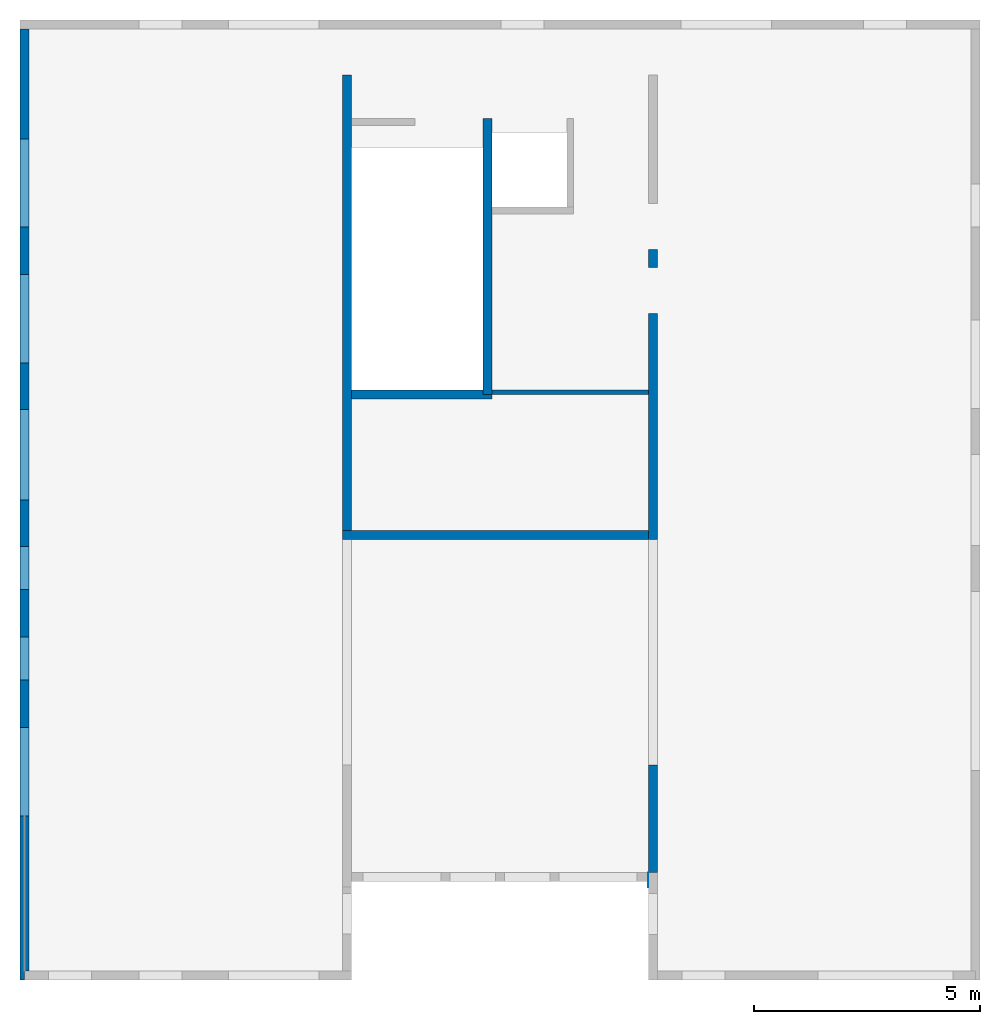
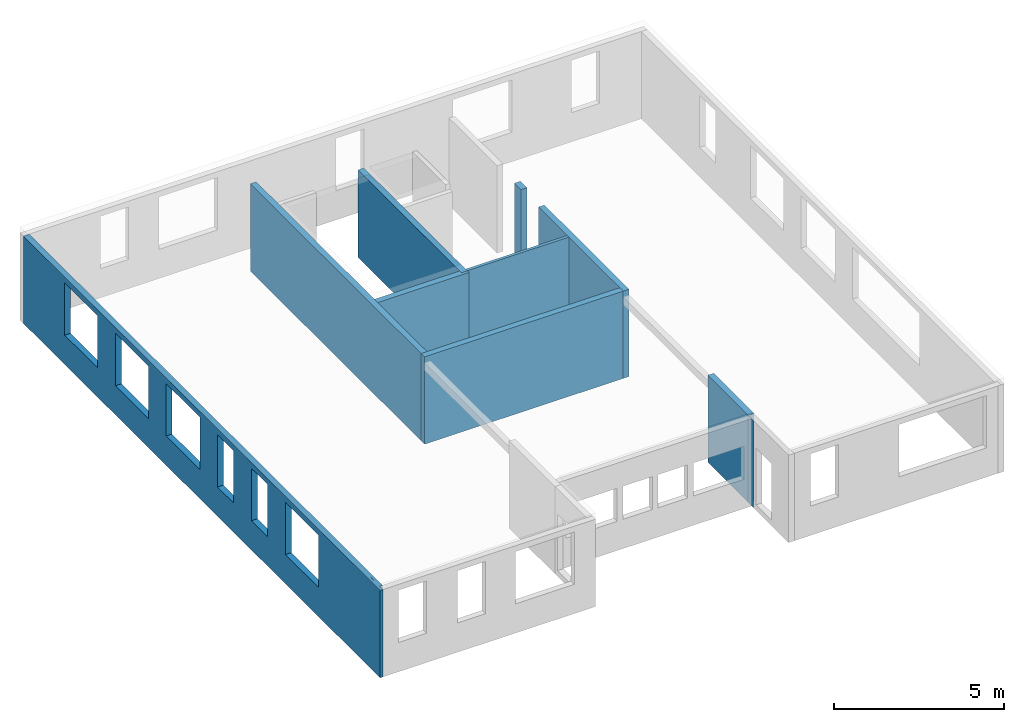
# One storey, part 2 of 3: 10 walls, 6 openings.
"""IFC2X3 building model written with IfcOpenShell, lengths in millimetres."""

from ifc_helpers import new_model, entity, si_unit, converted_unit, frame, frame_2d, origin, origin_with_axes, place, context, subcontext, project, spatial, polyline, rectangle, outline, extrude, material, layer, layer_set, layer_usage, element, save


model = new_model("IFC2X3")

# Units and contexts
model_context = context("Model", 3, precision=1e-05, world=origin())
body_context = subcontext(model_context, "Body", "Model", "MODEL_VIEW")
ifc_project = project(units=[si_unit("LENGTHUNIT", "METRE", prefix="MILLI"), converted_unit("PLANEANGLEUNIT", "DEGREE", entity("IfcPlaneAngleMeasure", 0.0174532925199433), si_unit("PLANEANGLEUNIT", "RADIAN"), dimensions=[0, 0, 0, 0, 0, 0, 0]), si_unit("AREAUNIT", "SQUARE_METRE"), si_unit("VOLUMEUNIT", "CUBIC_METRE")], contexts=[model_context])

# Building, storey
building_placement = place(None, origin())
building = spatial("IfcBuilding", under=ifc_project, at=building_placement, Name="Bâtiment", CompositionType="ELEMENT")
storey_placement = place(building_placement, frame((0.0, 0.0, 8450.0), z_axis=(0.0, 0.0, 1.0), x_axis=(1.0, 0.0, 0.0)))
storey = spatial("IfcBuildingStorey", under=building, at=storey_placement, Name="2. Etage supérieur", CompositionType="ELEMENT", Elevation=8450.0)

# Walls
ifc_material_1 = material(Name="<Unnamed Material>")
ifc_layer_1 = layer(ifc_material_1, 201.0)
ifc_layer_set_1 = layer_set([ifc_layer_1])
ifc_layer_usage_1 = layer_usage(ifc_layer_set_1, "AXIS2", "POSITIVE", 0.0)
wall_1_placement = place(storey_placement, frame((5082.184242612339, -21983.46924332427, -200.0), z_axis=(0.0, 0.0, 1.0), x_axis=(0.0, 1.0, 0.0)))
element("IfcWallStandardCase", 1, at=wall_1_placement, inside=storey, material=ifc_layer_usage_1, Name="<Unnamed Element>", context=body_context, shape_type="SweptSolid", body=[
    extrude(rectangle(XDim=10052.30491626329, YDim=201.0, at=frame_2d((5026.152458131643, 100.5), x_axis=(1.0, 0.0))), origin_with_axes(), (0.0, 0.0, 1.0), 3139.999999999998),
])
ifc_material_2 = material(Name="<Unnamed Material>")
ifc_layer_2 = layer(ifc_material_2, 200.0)
ifc_layer_set_2 = layer_set([ifc_layer_2])
ifc_layer_usage_2 = layer_usage(ifc_layer_set_2, "AXIS2", "POSITIVE", 0.0)
wall_2_placement = place(storey_placement, frame((8181.015023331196, -18984.53276778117, -200.0), z_axis=(0.0, 0.0, 1.0), x_axis=(0.0, 1.0, 0.0)))
element("IfcWallStandardCase", 2, at=wall_2_placement, inside=storey, material=ifc_layer_usage_2, Name="<Unnamed Element>", context=body_context, shape_type="SweptSolid", body=[
    extrude(rectangle(XDim=6092.387292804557, YDim=200.0, at=frame_2d((3046.193646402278, 100.0), x_axis=(1.0, 0.0))), origin_with_axes(), (0.0, 0.0, 1.0), 3139.999999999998),
])
ifc_material_3 = material(Name="<Unnamed Material>")
ifc_layer_3 = layer(ifc_material_3, 201.0)
ifc_layer_set_3 = layer_set([ifc_layer_3])
ifc_layer_usage_3 = layer_usage(ifc_layer_set_3, "AXIS2", "POSITIVE", 0.0)
wall_3_placement = place(storey_placement, frame((4881.184242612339, -22184.46924332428, -200.0), z_axis=(0.0, 0.0, 1.0), x_axis=(1.0, 1.778525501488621e-14, 0.0)))
element("IfcWallStandardCase", 3, at=wall_3_placement, inside=storey, material=ifc_layer_usage_3, Name="<Unnamed Element>", context=body_context, shape_type="SweptSolid", body=[
    extrude(rectangle(XDim=6750.159080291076, YDim=201.0, at=frame_2d((3375.079540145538, 100.5), x_axis=(1.0, 0.0))), origin_with_axes(), (0.0, 0.0, 1.0), 3139.999999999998),
])
ifc_material_4 = material(Name="<Unnamed Material>")
ifc_layer_4 = layer(ifc_material_4, 201.0)
ifc_layer_set_4 = layer_set([ifc_layer_4])
ifc_layer_usage_4 = layer_usage(ifc_layer_set_4, "AXIS2", "POSITIVE", 0.0)
wall_4_placement = place(storey_placement, frame((11832.34332290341, -22184.46924332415, -200.0), z_axis=(0.0, 0.0, 1.0), x_axis=(1.967982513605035e-14, 1.0, 0.0)))
element("IfcWallStandardCase", 4, at=wall_4_placement, inside=storey, material=ifc_layer_usage_4, Name="<Unnamed Element>", context=body_context, shape_type="SweptSolid", body=[
    extrude(rectangle(XDim=4991.173809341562, YDim=201.0, at=frame_2d((2495.586904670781, 100.5), x_axis=(1.0, 0.0))), origin_with_axes(), (0.0, 0.0, 1.0), 3139.999999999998),
])
ifc_material_5 = material(Name="<Unnamed Material>")
ifc_layer_5 = layer(ifc_material_5, 100.0)
ifc_layer_set_5 = layer_set([ifc_layer_5])
ifc_layer_usage_5 = layer_usage(ifc_layer_set_5, "AXIS2", "POSITIVE", -100.0)
wall_5_placement = place(storey_placement, frame((8181.015023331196, -18984.53276778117, -200.0), z_axis=(0.0, 0.0, 1.0), x_axis=(1.0, -3.690351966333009e-14, 0.0)))
element("IfcWallStandardCase", 5, at=wall_5_placement, inside=storey, material=ifc_layer_usage_5, Name="<Unnamed Element>", context=body_context, shape_type="SweptSolid", body=[
    extrude(rectangle(XDim=3450.328299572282, YDim=100.0, at=frame_2d((1725.164149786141, 50.0), x_axis=(1.0, 0.0))), origin_with_axes(), (0.0, 0.0, 1.0), 3139.999999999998),
])
ifc_material_6 = material(Name="<Unnamed Material>")
ifc_layer_6 = layer(ifc_material_6, 201.0000000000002)
ifc_layer_set_6 = layer_set([ifc_layer_6])
ifc_layer_usage_6 = layer_usage(ifc_layer_set_6, "AXIS2", "POSITIVE", 0.0)
wall_6_placement = place(storey_placement, frame((5082.184242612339, -19083.48742684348, -200.0), z_axis=(0.0, 0.0, 1.0), x_axis=(1.0, 1.17398433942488e-15, 0.0)))
element("IfcWallStandardCase", 6, at=wall_6_placement, inside=storey, material=ifc_layer_usage_6, Name="<Unnamed Element>", context=body_context, shape_type="SweptSolid", body=[
    extrude(outline(polyline([(0.0, 0.0), (3098.830780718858, 0.0), (3098.830780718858, 98.95465906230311), (2898.830780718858, 98.95465906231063), (2898.830780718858, 201.0000000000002), (2.359708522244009e-13, 201.0), (0.0, 0.0)])), origin_with_axes(), (0.0, 0.0, 1.0), 3139.999999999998),
])
ifc_material_7 = material(Name="<Unnamed Material>")
ifc_layer_7 = layer(ifc_material_7, 200.0)
ifc_layer_set_7 = layer_set([ifc_layer_7])
ifc_layer_usage_7 = layer_usage(ifc_layer_set_7, "AXIS2", "POSITIVE", 0.0)
wall_7_placement = place(storey_placement, frame((11832.34332290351, -16175.14281304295, -200.0), z_axis=(0.0, 0.0, 1.0), x_axis=(0.0, 1.0, 0.0)))
element("IfcWallStandardCase", 7, at=wall_7_placement, inside=storey, material=ifc_layer_usage_7, Name="<Unnamed Element>", context=body_context, shape_type="SweptSolid", body=[
    extrude(rectangle(XDim=391.5487979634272, YDim=200.0, at=frame_2d((195.7743989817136, 100.0), x_axis=(1.0, 0.0))), origin_with_axes(), (0.0, 0.0, 1.0), 3139.999999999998),
])

# Wall, openings
ifc_material_8 = material(Name="<Unnamed Material>")
ifc_layer_8 = layer(ifc_material_8, 200.0)
ifc_layer_set_8 = layer_set([ifc_layer_8])
ifc_layer_usage_8 = layer_usage(ifc_layer_set_8, "AXIS2", "POSITIVE", -200.0)
wall_8_placement = place(storey_placement, frame((-2043.731103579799, -31711.24569822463, -200.0), z_axis=(0.0, 0.0, 1.0), x_axis=(-3.498087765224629e-16, 1.0, 0.0)))
wall_8 = element("IfcWallStandardCase", 8, at=wall_8_placement, inside=storey, material=ifc_layer_usage_8, Name="<Unnamed Element>", context=body_context, shape_type="SweptSolid", body=[
    extrude(outline(polyline([(0.0, 0.0), (20799.81436290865, 0.0), (20799.81929355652, 200.0), (-199.9999999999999, 200.0000000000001), (-200.0, 100.5226704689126), (3.516371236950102e-14, 100.5226704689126), (3.525116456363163e-14, 100.7726704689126), (3424.335368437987, 100.7726704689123), (3424.335368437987, 100.2726704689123), (3.50762601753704e-14, 100.2726704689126), (0.0, 0.0)])), origin_with_axes(), (0.0, 0.0, 1.0), 3139.999999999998),
])
opening_1_placement = place(wall_8_placement, frame((13425.19722807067, -1.330225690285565e-12, 1050.0), z_axis=(0.0, 1.0, 0.0), x_axis=(0.0, 0.0, 1.0)))
element("IfcOpeningElement", 9, at=opening_1_placement, cuts=wall_8, Name="Baie de fenêtre", ObjectType="Opening", context=body_context, shape_type="SweptSolid", body=[
    extrude(rectangle(XDim=1880.0, YDim=1950.0, at=frame_2d((940.0, 975.0), x_axis=(1.0, 0.0))), origin_with_axes(), (0.0, 0.0, 1.0), 199.9999999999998),
])
opening_2_placement = place(wall_8_placement, frame((16425.00443970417, -1.784885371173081e-12, 1050.0), z_axis=(0.0, 1.0, 0.0), x_axis=(0.0, 0.0, 1.0)))
element("IfcOpeningElement", 10, at=opening_2_placement, cuts=wall_8, Name="Baie de fenêtre", ObjectType="Opening", context=body_context, shape_type="SweptSolid", body=[
    extrude(rectangle(XDim=1880.0, YDim=1950.0, at=frame_2d((940.0, 975.0), x_axis=(1.0, 0.0))), origin_with_axes(), (0.0, 0.0, 1.0), 200.0000000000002),
])
opening_3_placement = place(wall_8_placement, frame((10399.14128133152, -1.091003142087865e-12, 1050.0), z_axis=(0.0, 1.0, 0.0), x_axis=(0.0, 0.0, 1.0)))
element("IfcOpeningElement", 11, at=opening_3_placement, cuts=wall_8, Name="Baie de fenêtre", ObjectType="Opening", context=body_context, shape_type="SweptSolid", body=[
    extrude(rectangle(XDim=1880.0, YDim=2000.0, at=frame_2d((940.0, 1000.0), x_axis=(1.0, 0.0))), origin_with_axes(), (0.0, 0.0, 1.0), 200.0),
])
opening_4_placement = place(wall_8_placement, frame((6426.051450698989, -6.484931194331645e-13, 1050.0), z_axis=(0.0, 1.0, 0.0), x_axis=(0.0, 0.0, 1.0)))
element("IfcOpeningElement", 12, at=opening_4_placement, cuts=wall_8, Name="Baie de fenêtre", ObjectType="Opening", context=body_context, shape_type="SweptSolid", body=[
    extrude(rectangle(XDim=1880.0, YDim=950.0, at=frame_2d((940.0, 475.0), x_axis=(1.0, 0.0))), origin_with_axes(), (0.0, 0.0, 1.0), 200.0000000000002),
])
opening_5_placement = place(wall_8_placement, frame((8423.886756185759, -8.748824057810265e-13, 1050.0), z_axis=(0.0, 1.0, 0.0), x_axis=(0.0, 0.0, 1.0)))
element("IfcOpeningElement", 13, at=opening_5_placement, cuts=wall_8, Name="Baie de fenêtre", ObjectType="Opening", context=body_context, shape_type="SweptSolid", body=[
    extrude(rectangle(XDim=1880.0, YDim=950.0, at=frame_2d((940.0, 475.0), x_axis=(1.0, 0.0))), origin_with_axes(), (0.0, 0.0, 1.0), 200.0000000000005),
])
opening_6_placement = place(wall_8_placement, frame((3423.808959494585, -4.200996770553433e-13, 1050.0), z_axis=(0.0, 1.0, 0.0), x_axis=(0.0, 0.0, 1.0)))
element("IfcOpeningElement", 14, at=opening_6_placement, cuts=wall_8, Name="Baie de fenêtre", ObjectType="Opening", context=body_context, shape_type="SweptSolid", body=[
    extrude(rectangle(XDim=1880.0, YDim=1950.0, at=frame_2d((940.0, 975.0), x_axis=(1.0, 0.0))), origin_with_axes(), (0.0, 0.0, 1.0), 200.0000000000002),
])

# Walls
ifc_material_9 = material(Name="<Unnamed Material>")
ifc_layer_9 = layer(ifc_material_9, 199.9999999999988)
ifc_layer_set_9 = layer_set([ifc_layer_9])
ifc_layer_usage_9 = layer_usage(ifc_layer_set_9, "AXIS2", "POSITIVE", -100.0)
wall_9_placement = place(storey_placement, frame((11639.1860944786, -27162.64400077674, -200.0), z_axis=(0.0, 0.0, 1.0), x_axis=(-0.003135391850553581, -0.9999950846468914, 0.0)))
element("IfcWallStandardCase", 15, at=wall_9_placement, inside=storey, material=ifc_layer_usage_9, Name="<Unnamed Element>", context=body_context, shape_type="SweptSolid", body=[
    extrude(outline(polyline([(0.0, 0.0), (2379.516128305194, -2.735589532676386e-13), (2378.930014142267, 199.9999999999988), (2378.889046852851, 199.9999999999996), (4.064526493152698e-13, 199.9999999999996), (0.0, 0.0)])), origin_with_axes(), (0.0, 0.0, 1.0), 3139.999999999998),
])
ifc_material_10 = material(Name="<Unnamed Material>")
ifc_layer_10 = layer(ifc_material_10, 199.9999999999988)
ifc_layer_set_10 = layer_set([ifc_layer_10])
ifc_layer_usage_10 = layer_usage(ifc_layer_set_10, "AXIS2", "POSITIVE", -100.0)
wall_10_placement = place(storey_placement, frame((11639.1860944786, -27162.64400077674, -200.0), z_axis=(0.0, 0.0, 1.0), x_axis=(-0.003135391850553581, -0.9999950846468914, 0.0)))
element("IfcWallStandardCase", 16, at=wall_10_placement, inside=storey, material=ifc_layer_usage_10, Name="<Unnamed Element>", context=body_context, shape_type="SweptSolid", body=[
    extrude(outline(polyline([(2700.935815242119, 0.9419431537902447), (2379.516128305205, -2.398081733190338e-13), (2534.39237868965, 3.730349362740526e-13), (2578.471331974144, 0.1382054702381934), (2578.471765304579, 5.506706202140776e-13), (2700.93581524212, 0.0), (2700.935815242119, 0.9419431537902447)])), origin_with_axes(), (0.0, 0.0, 1.0), 3139.999999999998),
])

save(model, "model.ifc")
